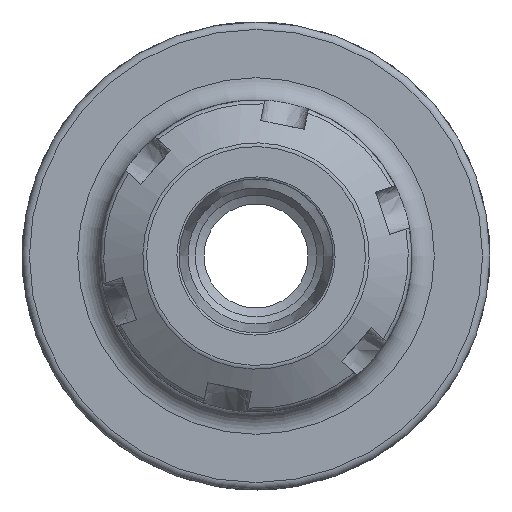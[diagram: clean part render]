
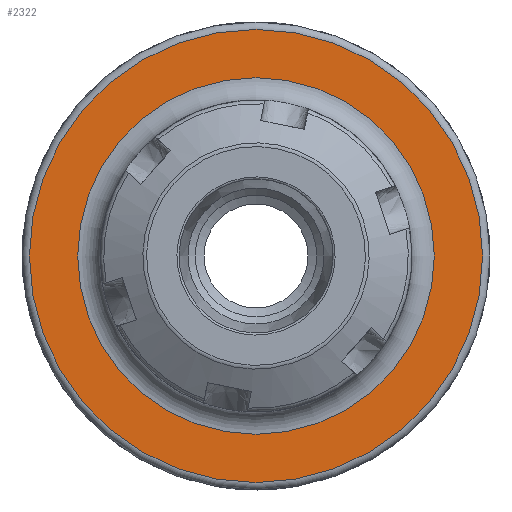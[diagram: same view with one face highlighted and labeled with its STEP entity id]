
A CAD part, front view. The second image highlights one B-rep face of the part: STEP entity #2322.
In plain terms, the highlighted planar face has unit normal (0, -1, 0).
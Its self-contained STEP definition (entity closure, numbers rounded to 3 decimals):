
#163=FACE_BOUND('',#392,.T.);
#176=PLANE('',#2549);
#259=FACE_OUTER_BOUND('',#391,.T.);
#391=EDGE_LOOP('',(#1634,#1635));
#392=EDGE_LOOP('',(#1636,#1637));
#790=CIRCLE('',#2547,24.);
#791=CIRCLE('',#2548,24.);
#792=CIRCLE('',#2550,30.5);
#793=CIRCLE('',#2551,30.5);
#948=VERTEX_POINT('',#3547);
#949=VERTEX_POINT('',#3549);
#950=VERTEX_POINT('',#3553);
#951=VERTEX_POINT('',#3554);
#1217=EDGE_CURVE('',#948,#949,#790,.T.);
#1218=EDGE_CURVE('',#949,#948,#791,.T.);
#1219=EDGE_CURVE('',#950,#951,#792,.T.);
#1220=EDGE_CURVE('',#951,#950,#793,.T.);
#1634=ORIENTED_EDGE('',*,*,#1219,.F.);
#1635=ORIENTED_EDGE('',*,*,#1220,.F.);
#1636=ORIENTED_EDGE('',*,*,#1218,.F.);
#1637=ORIENTED_EDGE('',*,*,#1217,.F.);
#2322=ADVANCED_FACE('',(#259,#163),#176,.T.);
#2547=AXIS2_PLACEMENT_3D('',#3550,#2891,#2892);
#2548=AXIS2_PLACEMENT_3D('',#3551,#2893,#2894);
#2549=AXIS2_PLACEMENT_3D('',#3552,#2895,#2896);
#2550=AXIS2_PLACEMENT_3D('',#3555,#2897,#2898);
#2551=AXIS2_PLACEMENT_3D('',#3556,#2899,#2900);
#2891=DIRECTION('center_axis',(0.,-1.,0.));
#2892=DIRECTION('ref_axis',(-1.,0.,0.));
#2893=DIRECTION('center_axis',(0.,-1.,0.));
#2894=DIRECTION('ref_axis',(-1.,0.,0.));
#2895=DIRECTION('center_axis',(0.,-1.,0.));
#2896=DIRECTION('ref_axis',(0.,0.,-1.));
#2897=DIRECTION('center_axis',(0.,1.,0.));
#2898=DIRECTION('ref_axis',(1.,0.,0.));
#2899=DIRECTION('center_axis',(0.,1.,0.));
#2900=DIRECTION('ref_axis',(1.,0.,0.));
#3547=CARTESIAN_POINT('',(0.,-27.,-24.));
#3549=CARTESIAN_POINT('',(24.,-27.,0.));
#3550=CARTESIAN_POINT('Origin',(0.,-27.,0.));
#3551=CARTESIAN_POINT('Origin',(0.,-27.,0.));
#3552=CARTESIAN_POINT('Origin',(-31.5,-27.,0.));
#3553=CARTESIAN_POINT('',(-30.5,-27.,0.));
#3554=CARTESIAN_POINT('',(0.,-27.,-30.5));
#3555=CARTESIAN_POINT('Origin',(0.,-27.,0.));
#3556=CARTESIAN_POINT('Origin',(0.,-27.,0.));
